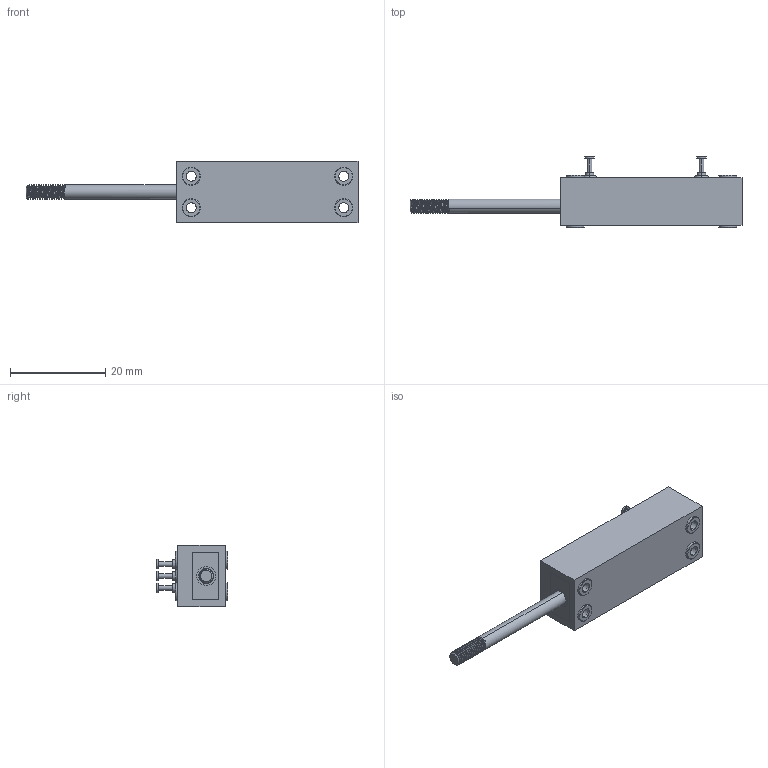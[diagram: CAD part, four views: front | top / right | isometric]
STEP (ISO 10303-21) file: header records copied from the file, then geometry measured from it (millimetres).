
FILE_DESCRIPTION (( 'STEP AP214' ), '1' );
FILE_NAME ('CLP13_13.STEP', '2016-11-28T12:34:42', ( '' ), ( '' ), 'SwSTEP 2.0', 'SolidWorks 2016', '' );
FILE_SCHEMA (( 'AUTOMOTIVE_DESIGN' ));
Length unit declared in the file: millimetre
Products named in the file (6): CLP13_13; Taster_CLP13_13_M2; Lager_CLP13; Lötstifte_hoch_CLP13; Hohlniet_CLP13; Geheuse_CLP13-13
Assembly tree (10 placements, depth 2):
  CLP13_13
    Geheuse_CLP13-13
    Hohlniet_CLP13  x4
    Lötstifte_hoch_CLP13  x3
    Lager_CLP13
    Taster_CLP13_13_M2
Bounding box: 69.7 x 15 x 13 mm (x, y, z)
Volume: 4737.6 mm3; surface area: 4229.1 mm2
Topology: 10 solids, 10 shells, 422 faces, 1053 edges, 692 vertices
Faces by surface type: plane 198, cylinder 94, bspline 88, cone 42
Entity records: 18526 total; most frequent: CARTESIAN_POINT 9767, ORIENTED_EDGE 1826, DIRECTION 1309, EDGE_CURVE 913, VERTEX_POINT 604, LINE 575, VECTOR 575, EDGE_LOOP 395
